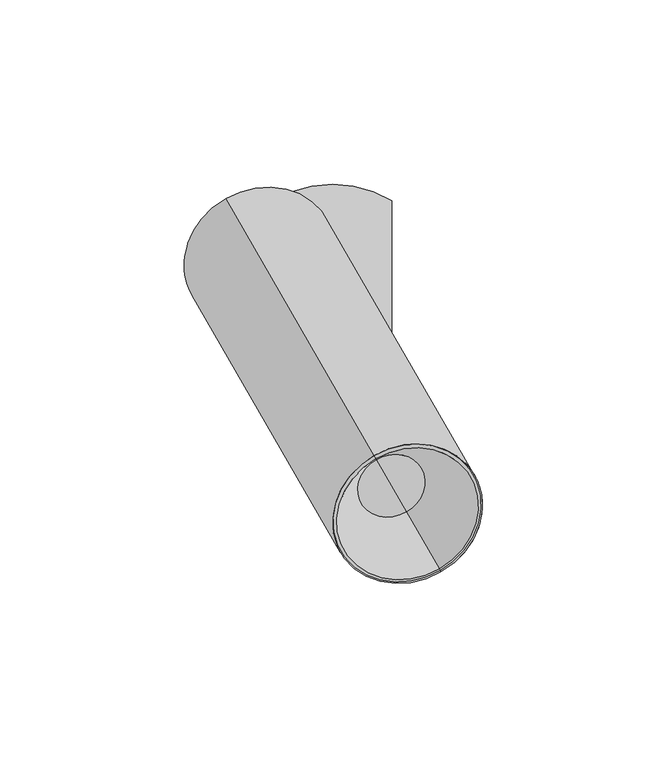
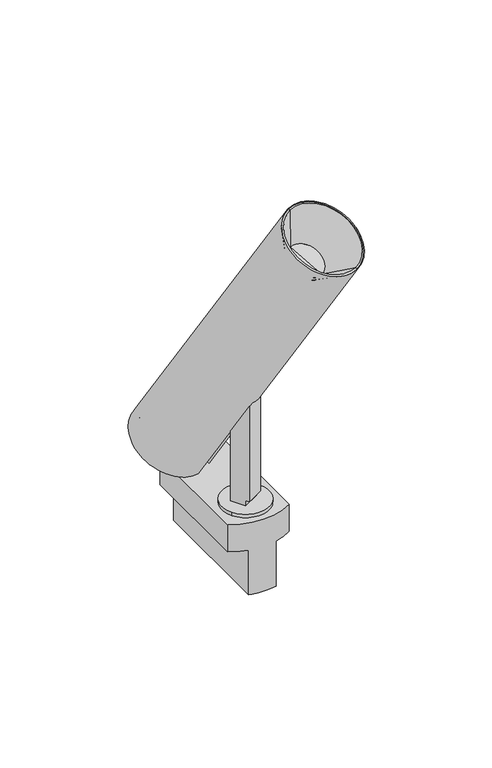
"""IFC4 building model written with IfcOpenShell, lengths in millimetres: light fixture geometry, PIPES T XS : 490lm 7,8W 930 38°."""

from ifc_helpers import new_model, si_unit, point, frame, frame_2d, origin, origin_2d, place, context, project, spatial, polyline, circle_curve, trimmed, segment, composite_curve, outline, extrude, source, transform, mapped, element, save
from ifc_brep_helpers import plane_surface, cylinder_surface, revolved_surface, advanced_brep


def light_fixture_933f2345(model_context):
    return source(origin(), model_context, "Body", "SolidModel", [
        extrude(outline(composite_curve([segment(polyline([(39.7303383, 0.0), (39.7303383, -8.0), (36.7303383, -8.0), (36.7303383, -10.0), (-21.31827, -10.0), (-21.31827, -2.0)]), True, "CONTINUOUS"), segment(trimmed(circle_curve(frame_2d((-15.691322, -2.0)), 5.626948), [point((-21.31827, -2.0))], [point((-15.691322, 3.626948))], False, "CARTESIAN"), True, "CONTINUOUS"), segment(polyline([(-15.691322, 3.626948), (-9.8735653, 3.626948)]), True, "CONTINUOUS"), segment(trimmed(circle_curve(frame_2d((-17.7182036, -2.2388678)), 9.7952104), [point((-9.8735653, 3.626948))], [point((-8.1822916, 0.0))], False, "CARTESIAN"), True, "CONTINUOUS"), segment(polyline([(-8.1822916, 0.0), (39.7303383, 0.0)]), True, "CONTINUOUS")], self_intersect=False)), frame((-6.830127, 1.830127, 56.5303383), z_axis=(0.8660254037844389, 0.49999999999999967, 0.0), x_axis=(0.0, 0.0, -1.0)), (0.0, 0.0, 1.0), 10.0),
        extrude(outline(composite_curve([segment(trimmed(circle_curve(origin_2d(), 12.5), [point((10.8253175, 6.25))], [point((-10.8253175, -6.25))], False, "CARTESIAN"), True, "CONTINUOUS"), segment(trimmed(circle_curve(origin_2d(), 12.5), [point((-10.8253175, -6.25))], [point((10.8253175, 6.25))], False, "CARTESIAN"), True, "CONTINUOUS")], self_intersect=False)), frame((0.0, 0.0, 15.0), z_axis=(0.0, 0.0, 1.0), x_axis=(1.0, 0.0, 0.0)), (0.0, 0.0, 1.0), 1.8),
        advanced_brep(
        [(-7.1153658, -15.2862846, -25.0), (-7.1153658, 53.3498174, -25.0), (7.1153658, 53.3498174, -25.0), (7.1153658, -15.2862846, -25.0), (-16.1153658, 49.7317664, 15.0), (-16.1153658, -11.6682336, 15.0), (16.1153658, -11.6682336, 15.0), (16.1153658, 49.7317664, 15.0), (-16.1153658, 49.7317664, 0.0), (-16.1153658, -11.6682336, 0.0), (-7.1153658, -15.2862846, 0.0), (7.1153658, -15.2862846, 0.0), (16.1153658, -11.6682336, 0.0), (16.1153658, 49.7317664, 0.0), (7.1153658, 53.3498174, 0.0), (-7.1153658, 53.3498174, 0.0)],
        [
            (0, 1),
            (1, 2, circle_curve(frame((0.0, 22.6472542, -25.0), z_axis=(0.0, 0.0, -1.0), x_axis=(1.0, 0.0, 0.0)), 31.5162786)),
            (2, 3),
            (3, 0, circle_curve(frame((0.0, 15.4162786, -25.0), z_axis=(0.0, 0.0, -1.0), x_axis=(1.0, 0.0, 0.0)), 31.5162786)),
            (4, 5),
            (5, 6, circle_curve(frame((0.0, 15.4162786, 15.0), z_axis=(0.0, 0.0, 1.0), x_axis=(1.0, 0.0, 0.0)), 31.5162786)),
            (6, 7),
            (7, 4, circle_curve(frame((0.0, 22.6472542, 15.0), z_axis=(0.0, 0.0, 1.0), x_axis=(1.0, 0.0, 0.0)), 31.5162786)),
            (4, 8),
            (8, 9),
            (9, 5),
            (9, 10, circle_curve(frame((0.0, 15.4162786, 0.0), z_axis=(0.0, 0.0, 1.0), x_axis=(1.0, 0.0, 0.0)), 31.5162786)),
            (10, 0),
            (3, 11),
            (11, 12, circle_curve(frame((0.0, 15.4162786, 0.0), z_axis=(0.0, 0.0, 1.0), x_axis=(1.0, 0.0, 0.0)), 31.5162786)),
            (12, 6),
            (12, 13),
            (13, 7),
            (13, 14, circle_curve(frame((0.0, 22.6472542, 0.0), z_axis=(0.0, 0.0, 1.0), x_axis=(1.0, 0.0, 0.0)), 31.5162786)),
            (14, 2),
            (1, 15),
            (15, 8, circle_curve(frame((0.0, 22.6472542, 0.0), z_axis=(0.0, 0.0, 1.0), x_axis=(1.0, 0.0, 0.0)), 31.5162786)),
            (15, 10),
            (11, 14),
        ],
        [
            plane_surface(frame((-16.1153658, -11.6883244, -25.0), z_axis=(0.0, 0.0, -1.0), x_axis=(0.0, 1.0, 0.0))),
            plane_surface(frame((-16.1153658, -11.6883244, 15.0), z_axis=(0.0, 0.0, 1.0), x_axis=(0.0, -1.0, 0.0))),
            plane_surface(frame((-16.1153658, 49.7317664, 15.0), z_axis=(-1.0, 0.0, 0.0), x_axis=(0.0, 0.0, -1.0))),
            cylinder_surface(frame((0.0, 15.4162786, -25.0), z_axis=(0.0, 0.0, 1.0), x_axis=(1.0, 0.0, 0.0)), 31.5162786),
            plane_surface(frame((16.1153658, -11.6682336, 15.0), z_axis=(1.0, 0.0, 0.0), x_axis=(0.0, 0.0, -1.0))),
            cylinder_surface(frame((0.0, 22.6472542, -25.0), z_axis=(0.0, 0.0, 1.0), x_axis=(1.0, 0.0, 0.0)), 31.5162786),
            plane_surface(frame((-7.1153658, 58.6979838, 0.0), z_axis=(0.0, 0.0, -1.0), x_axis=(-1.0, 0.0, 0.0))),
            plane_surface(frame((-7.1153658, -21.3020162, 0.0), z_axis=(-1.0, 0.0, 0.0), x_axis=(0.0, 0.0, -1.0))),
            plane_surface(frame((7.1153658, -11.6883244, 0.0), z_axis=(0.0, 0.0, -1.0), x_axis=(0.0, -1.0, 0.0))),
            plane_surface(frame((7.1153658, 58.6979838, 0.0), z_axis=(1.0, 0.0, 0.0), x_axis=(0.0, 0.0, -1.0))),
        ],
        [
            (0, [[1, 2, 3, 4]]),
            (1, [[5, 6, 7, 8]]),
            (2, [[-5, 9, 10, 11]]),
            (3, [[-6, -11, 12, 13, -4, 14, 15, 16]]),
            (4, [[-7, -16, 17, 18]]),
            (5, [[-8, -18, 19, 20, -2, 21, 22, -9]]),
            (6, [[23, -12, -10, -22]]),
            (7, [[-23, -21, -1, -13]]),
            (8, [[24, -19, -17, -15]]),
            (9, [[-24, -14, -3, -20]]),
        ],
    ),
        advanced_brep(
        [(3.4150635, 4.0849365, 79.830127), (-9.3349365, 26.1685843, 35.6628314), (-6.1608223, 20.6708572, 31.99768), (-7.6608223, 23.2689334, 26.8015276), (-6.7663153, 21.719602, 25.76864), (7.4836847, -2.9621221, 75.132088), (-5.2451905, -0.9150635, 79.830127), (-1.1765694, -7.9621221, 75.132088), (-15.4265694, 16.719602, 25.76864), (-16.3210763, 18.2689334, 26.8015276), (-14.8210763, 15.6708572, 31.99768), (-17.9951905, 21.1685843, 35.6628314), (-13.6650635, 23.6685843, 35.6628314), (3.4150635, -5.9150635, 74.830127), (29.4150635, -50.9483845, 164.896769), (11.22853, -19.4483845, 185.896769), (-29.02147, 50.2666605, 46.466679), (-28.1554446, 48.7666605, 45.466679), (-26.6554446, 46.1685843, 50.6628314), (-18.4282032, 31.9185843, 41.1628314), (11.3666698, -19.6876495, 164.375299), (20.0269238, -34.6876495, 154.375299), (15.6967968, -27.1876495, 159.375299)],
        [
            (0, 1),
            (1, 2),
            (2, 3),
            (3, 4),
            (4, 5),
            (5, 0),
            (6, 7),
            (7, 8),
            (8, 9),
            (9, 10),
            (10, 11),
            (11, 6),
            (0, 6),
            (11, 12),
            (12, 1),
            (5, 13, circle_curve(frame((-5.6782032, 9.8349365, 85.330127), z_axis=(-0.2500000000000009, 0.4330127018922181, -0.8660254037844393), x_axis=(0.4330127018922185, -0.750000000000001, -0.4999999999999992)), 21.0)),
            (13, 7, circle_curve(frame((-5.6782032, 9.8349365, 85.330127), z_axis=(-0.2500000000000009, 0.4330127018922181, -0.8660254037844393), x_axis=(0.4330127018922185, -0.750000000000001, -0.4999999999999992)), 21.0)),
            (14, 15, circle_curve(frame((20.3217968, -35.1983845, 175.396769), z_axis=(-0.2500000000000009, 0.4330127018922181, -0.8660254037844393), x_axis=(0.4330127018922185, -0.750000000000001, -0.4999999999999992)), 21.0)),
            (15, 16),
            (16, 8, circle_curve(frame((-19.9282032, 34.5166605, 35.966679), z_axis=(0.2500000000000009, -0.4330127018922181, 0.8660254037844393), x_axis=(0.4330127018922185, -0.750000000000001, -0.4999999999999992)), 21.0)),
            (13, 14),
            (15, 14, circle_curve(frame((20.3217968, -35.1983845, 175.396769), z_axis=(-0.2500000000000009, 0.4330127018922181, -0.8660254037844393), x_axis=(0.4330127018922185, -0.750000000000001, -0.4999999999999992)), 21.0)),
            (4, 16, circle_curve(frame((-19.9282032, 34.5166605, 35.966679), z_axis=(0.2500000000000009, -0.4330127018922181, 0.8660254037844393), x_axis=(0.4330127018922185, -0.750000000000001, -0.4999999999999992)), 21.0)),
            (16, 17),
            (17, 9, circle_curve(frame((-19.9282032, 34.5166605, 35.966679), z_axis=(0.2500000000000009, -0.4330127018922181, 0.8660254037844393), x_axis=(0.4330127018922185, -0.750000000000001, -0.4999999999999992)), 19.0)),
            (3, 17, circle_curve(frame((-19.9282032, 34.5166605, 35.966679), z_axis=(0.2500000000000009, -0.4330127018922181, 0.8660254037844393), x_axis=(0.4330127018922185, -0.750000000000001, -0.4999999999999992)), 19.0)),
            (17, 18),
            (18, 10, circle_curve(frame((-18.4282032, 31.9185843, 41.1628314), z_axis=(0.2500000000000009, -0.4330127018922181, 0.8660254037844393), x_axis=(0.4330127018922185, -0.750000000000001, -0.4999999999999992)), 19.0)),
            (2, 18, circle_curve(frame((-18.4282032, 31.9185843, 41.1628314), z_axis=(0.2500000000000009, -0.4330127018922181, 0.8660254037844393), x_axis=(0.4330127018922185, -0.750000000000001, -0.4999999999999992)), 19.0)),
            (18, 19),
            (19, 12),
            (20, 21, circle_curve(frame((15.6967968, -27.1876495, 159.375299), z_axis=(0.2500000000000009, -0.4330127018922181, 0.8660254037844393), x_axis=(0.4330127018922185, -0.750000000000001, -0.4999999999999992)), 10.0)),
            (21, 22),
            (22, 20),
            (21, 20, circle_curve(frame((15.6967968, -27.1876495, 159.375299), z_axis=(0.2500000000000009, -0.4330127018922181, 0.8660254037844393), x_axis=(0.4330127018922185, -0.750000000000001, -0.4999999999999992)), 10.0)),
            (14, 21),
            (20, 15),
        ],
        [
            plane_surface(frame((3.4150635, 4.0849365, 79.830127), z_axis=(-0.866025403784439, -0.49999999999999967, 0.0), x_axis=(0.25000000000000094, -0.43301270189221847, 0.8660254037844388))),
            plane_surface(frame((-5.2451905, -0.9150635, 79.830127), z_axis=(0.866025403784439, 0.49999999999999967, 0.0), x_axis=(-0.25000000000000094, 0.43301270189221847, -0.8660254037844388))),
            plane_surface(frame((-5.2451905, -0.9150635, 79.830127), z_axis=(0.4330127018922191, -0.7500000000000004, -0.4999999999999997), x_axis=(0.8660254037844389, 0.49999999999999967, 0.0))),
            plane_surface(frame((3.4150635, -15.9150635, 69.830127), z_axis=(-0.250000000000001, 0.43301270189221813, -0.8660254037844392), x_axis=(0.8660254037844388, 0.49999999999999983, 0.0))),
            cylinder_surface(frame((-22.0412985, 38.1766488, 28.6467024), z_axis=(-0.25000000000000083, 0.43301270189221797, -0.866025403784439), x_axis=(0.4330127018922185, -0.750000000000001, -0.4999999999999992)), 21.0),
            plane_surface(frame((-19.9282032, 34.5166605, 35.966679), z_axis=(-0.2500000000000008, 0.43301270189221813, -0.8660254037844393), x_axis=(0.4330127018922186, -0.7500000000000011, -0.4999999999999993))),
            revolved_surface(polyline([(-11.700961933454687, 20.266660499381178, 26.466679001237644), (-10.200961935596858, 17.66858429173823, 31.66283141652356)]), (-22.0412985, 38.1766488, 28.6467024), (-0.25000000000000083, 0.43301270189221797, -0.866025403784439)),
            plane_surface(frame((-18.4282032, 31.9185843, 41.1628314), z_axis=(-0.2500000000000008, 0.43301270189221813, -0.8660254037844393), x_axis=(0.4330127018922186, -0.7500000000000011, -0.4999999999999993))),
            plane_surface(frame((15.6967968, -27.1876495, 159.375299), z_axis=(0.2500000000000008, -0.43301270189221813, 0.8660254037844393), x_axis=(0.4330127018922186, -0.7500000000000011, -0.4999999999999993))),
            revolved_surface(polyline([(20.0269238, -34.6876495, 154.375299), (29.4150635, -50.9483845, 164.896769)]), (-22.0412985, 38.1766488, 28.6467024), (-0.25000000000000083, 0.43301270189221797, -0.866025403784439)),
        ],
        [
            (0, [[1, 2, 3, 4, 5, 6]]),
            (1, [[7, 8, 9, 10, 11, 12]]),
            (2, [[13, -12, 14, 15, -1]]),
            (3, [[-13, -6, 16, 17, -7]]),
            (4, [[18, 19, 20, -8, -17, 21]]),
            (4, [[-19, 22, -21, -16, -5, 23]]),
            (5, [[24, 25, -9, -20]]),
            (5, [[-24, -23, -4, 26]]),
            (6, [[27, 28, -10, -25]]),
            (6, [[-27, -26, -3, 29]]),
            (7, [[30, 31, -14, -11, -28]]),
            (7, [[-30, -29, -2, -15, -31]]),
            (8, [[32, 33, 34]]),
            (8, [[-33, 35, -34]]),
            (9, [[-18, 36, -32, 37]]),
            (9, [[-22, -37, -35, -36]]),
        ],
    ),
        advanced_brep(
        [(-10.3349365, 27.9006351, 32.1987298), (-10.8349365, 28.7666605, 30.466679), (-8.5653325, 24.8355911, 27.845966), (-8.0653325, 23.9695657, 29.5780169), (-19.4951905, 23.7666605, 30.466679), (-18.9951905, 22.9006351, 32.1987298), (-16.7255865, 18.9695657, 29.5780169), (-17.2255865, 19.8355911, 27.845966), (-14.6650635, 25.4006351, 32.1987298), (-15.1650635, 26.2666605, 30.466679), (-19.4282032, 33.6506351, 37.6987298), (-26.7866667, 46.3958676, 46.1955515), (-27.2866667, 47.261893, 44.4635007), (-19.9282032, 34.5166605, 35.966679)],
        [
            (0, 1),
            (1, 2),
            (2, 3),
            (3, 0),
            (4, 5),
            (5, 6),
            (6, 7),
            (7, 4),
            (0, 8),
            (8, 5),
            (4, 9),
            (9, 1),
            (10, 11),
            (11, 6, circle_curve(frame((-19.4282032, 33.6506351, 37.6987298), z_axis=(0.25000000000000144, -0.433012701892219, 0.8660254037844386), x_axis=(0.4330127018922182, -0.7500000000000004, -0.5000000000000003)), 16.9936434)),
            (8, 10),
            (3, 11, circle_curve(frame((-19.4282032, 33.6506351, 37.6987298), z_axis=(0.25000000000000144, -0.433012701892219, 0.8660254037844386), x_axis=(0.4330127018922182, -0.7500000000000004, -0.5000000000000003)), 16.9936434)),
            (11, 12),
            (12, 7, circle_curve(frame((-19.9282032, 34.5166605, 35.966679), z_axis=(0.25000000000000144, -0.433012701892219, 0.8660254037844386), x_axis=(0.4330127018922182, -0.7500000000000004, -0.5000000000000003)), 16.9936434)),
            (2, 12, circle_curve(frame((-19.9282032, 34.5166605, 35.966679), z_axis=(0.25000000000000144, -0.433012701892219, 0.8660254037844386), x_axis=(0.4330127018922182, -0.7500000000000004, -0.5000000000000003)), 16.9936434)),
            (12, 13),
            (13, 9),
        ],
        [
            plane_surface(frame((3.4150635, 4.0849365, 79.830127), z_axis=(-0.866025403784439, -0.49999999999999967, 0.0), x_axis=(0.25000000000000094, -0.43301270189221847, 0.8660254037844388))),
            plane_surface(frame((-5.2451905, -0.9150635, 79.830127), z_axis=(0.866025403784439, 0.49999999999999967, 0.0), x_axis=(-0.25000000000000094, 0.43301270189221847, -0.8660254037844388))),
            plane_surface(frame((-5.2451905, -0.9150635, 79.830127), z_axis=(0.4330127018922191, -0.7500000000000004, -0.4999999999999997), x_axis=(0.8660254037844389, 0.49999999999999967, 0.0))),
            plane_surface(frame((-19.4282032, 33.6506351, 37.6987298), z_axis=(0.2500000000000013, -0.433012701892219, 0.8660254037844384), x_axis=(0.43301270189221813, -0.7500000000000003, -0.5000000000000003))),
            cylinder_surface(frame((13.0837015, -22.6616358, 150.3232716), z_axis=(-0.2500000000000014, 0.4330127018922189, -0.8660254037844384), x_axis=(0.4330127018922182, -0.7500000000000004, -0.5000000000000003)), 16.9936434),
            plane_surface(frame((-19.9282032, 34.5166605, 35.966679), z_axis=(-0.2500000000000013, 0.433012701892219, -0.8660254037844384), x_axis=(0.43301270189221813, -0.7500000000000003, -0.5000000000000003))),
        ],
        [
            (0, [[1, 2, 3, 4]]),
            (1, [[5, 6, 7, 8]]),
            (2, [[-1, 9, 10, -5, 11, 12]]),
            (3, [[13, 14, -6, -10, 15]]),
            (3, [[-13, -15, -9, -4, 16]]),
            (4, [[17, 18, -7, -14]]),
            (4, [[-17, -16, -3, 19]]),
            (5, [[20, 21, -11, -8, -18]]),
            (5, [[-20, -19, -2, -12, -21]]),
        ],
    ),
        advanced_brep(
        [(11.8629778, -20.5472802, 164.9569125), (20.0306158, -34.6940443, 155.5257364), (15.9467968, -27.6206622, 160.2413244), (11.732305, -20.3209484, 185.3150597), (28.9112885, -50.0758206, 165.4784783), (11.22853, -19.4483845, 185.896769), (29.4150635, -50.9483845, 164.896769), (11.3666698, -19.6876495, 164.375299), (20.0269238, -34.6876495, 154.375299), (15.6967968, -27.1876495, 159.375299)],
        [
            (0, 1, circle_curve(frame((15.9467968, -27.6206622, 160.2413244), z_axis=(0.250000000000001, -0.43301270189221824, 0.866025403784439), x_axis=(0.4330127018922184, -0.7500000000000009, -0.49999999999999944)), 9.431176)),
            (1, 2),
            (2, 0),
            (1, 0, circle_curve(frame((15.9467968, -27.6206622, 160.2413244), z_axis=(0.250000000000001, -0.43301270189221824, 0.866025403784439), x_axis=(0.4330127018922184, -0.7500000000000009, -0.49999999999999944)), 9.431176)),
            (3, 4, circle_curve(frame((20.3217968, -35.1983845, 175.396769), z_axis=(0.250000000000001, -0.43301270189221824, 0.866025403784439), x_axis=(0.4330127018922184, -0.7500000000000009, -0.49999999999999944)), 19.8365814)),
            (4, 1),
            (0, 3),
            (4, 3, circle_curve(frame((20.3217968, -35.1983845, 175.396769), z_axis=(0.250000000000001, -0.43301270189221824, 0.866025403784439), x_axis=(0.4330127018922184, -0.7500000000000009, -0.49999999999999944)), 19.8365814)),
            (5, 6, circle_curve(frame((20.3217968, -35.1983845, 175.396769), z_axis=(0.250000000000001, -0.43301270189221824, 0.866025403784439), x_axis=(0.4330127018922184, -0.7500000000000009, -0.49999999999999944)), 21.0)),
            (6, 4),
            (3, 5),
            (6, 5, circle_curve(frame((20.3217968, -35.1983845, 175.396769), z_axis=(0.250000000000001, -0.43301270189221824, 0.866025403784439), x_axis=(0.4330127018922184, -0.7500000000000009, -0.49999999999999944)), 21.0)),
            (7, 8, circle_curve(frame((15.6967968, -27.1876495, 159.375299), z_axis=(0.250000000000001, -0.43301270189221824, 0.866025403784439), x_axis=(0.4330127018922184, -0.7500000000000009, -0.49999999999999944)), 10.0)),
            (8, 6),
            (5, 7),
            (8, 7, circle_curve(frame((15.6967968, -27.1876495, 159.375299), z_axis=(0.250000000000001, -0.43301270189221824, 0.866025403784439), x_axis=(0.4330127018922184, -0.7500000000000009, -0.49999999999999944)), 10.0)),
            (9, 8),
            (7, 9),
        ],
        [
            plane_surface(frame((15.9467968, -27.6206622, 160.2413244), z_axis=(0.2500000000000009, -0.4330127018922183, 0.866025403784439), x_axis=(0.43301270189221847, -0.7500000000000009, -0.4999999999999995))),
            revolved_surface(polyline([(20.0306158, -34.6940443, 155.5257364), (28.9112885, -50.0758206, 165.4784783)]), (-27.0412985, 46.8369028, 11.3261943), (-0.25000000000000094, 0.43301270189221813, -0.8660254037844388)),
            plane_surface(frame((20.3217968, -35.1983845, 175.396769), z_axis=(0.2500000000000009, -0.4330127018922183, 0.866025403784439), x_axis=(0.43301270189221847, -0.7500000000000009, -0.4999999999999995))),
            revolved_surface(polyline([(29.4150635, -50.9483845, 164.896769), (20.0269238, -34.6876495, 154.375299)]), (-27.0412985, 46.8369028, 11.3261943), (-0.25000000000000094, 0.43301270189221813, -0.8660254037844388)),
            plane_surface(frame((15.6967968, -27.1876495, 159.375299), z_axis=(-0.2500000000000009, 0.4330127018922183, -0.866025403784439), x_axis=(0.43301270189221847, -0.7500000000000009, -0.4999999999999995))),
        ],
        [
            (0, [[1, 2, 3]]),
            (0, [[4, -3, -2]]),
            (1, [[5, 6, -1, 7]]),
            (1, [[8, -7, -4, -6]]),
            (2, [[9, 10, -5, 11]]),
            (2, [[12, -11, -8, -10]]),
            (3, [[13, 14, -9, 15]]),
            (3, [[16, -15, -12, -14]]),
            (4, [[17, -13, 18]]),
            (4, [[-18, -16, -17]]),
        ],
    ),
    ])


if __name__ == "__main__":
    model = new_model("IFC4")
    model_context = context("Model", 3, world=origin())
    ifc_project = project(units=[si_unit("LENGTHUNIT", "METRE", prefix="MILLI")], contexts=[model_context])
    site = spatial("IfcSite", under=ifc_project)
    building = spatial("IfcBuilding", under=site)
    placement = place(None, origin())
    light_fixture_shape = light_fixture_933f2345(model_context)
    element("IfcLightFixture", 1, ObjectType="PIPES T XS : 490lm 7,8W 930 38°", at=placement, inside=building, context=model_context, shape_type="MappedRepresentation", body=[
        mapped(light_fixture_shape, transform((0.0, 0.0, 0.0), x_axis=(1.0, 0.0, 0.0), y_axis=(0.0, 1.0, 0.0), z_axis=(0.0, 0.0, 1.0))),
    ])
    save(model, "model.ifc")
